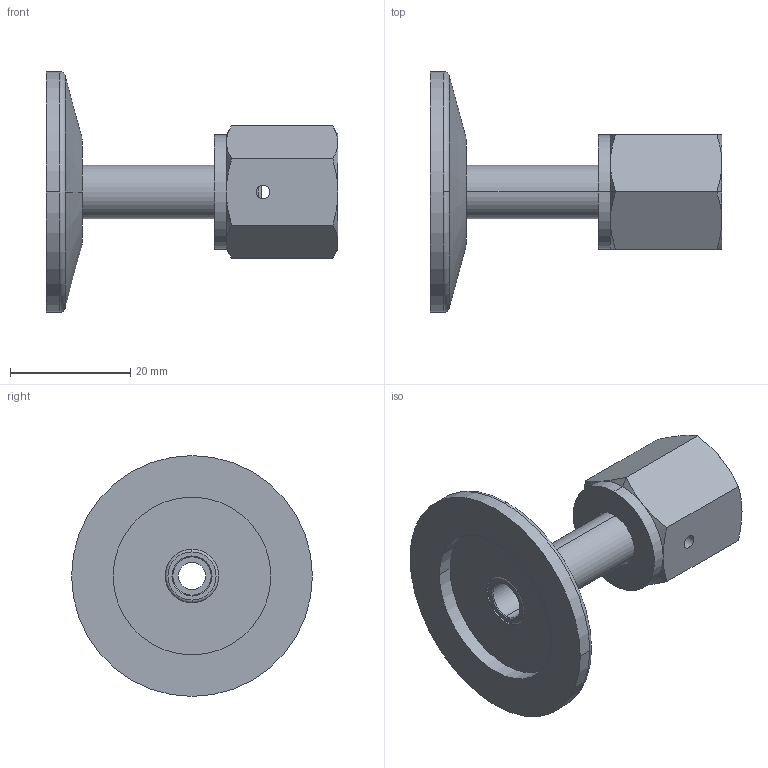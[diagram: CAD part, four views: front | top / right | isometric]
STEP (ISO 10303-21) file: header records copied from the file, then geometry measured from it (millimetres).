
FILE_DESCRIPTION((''),'2;1');
FILE_NAME('W:\211-480.stp','2003-10-31T15:28:55',('KAA'),(''),'Autodesk Inventor (R) 6.0','Autodesk Inventor (R) 6.0','');
FILE_SCHEMA(('CONFIG_CONTROL_DESIGN'));
Length unit declared in the file: millimetre
Products named in the file (1): 211-480
Bounding box: 48.47 x 40 x 40 mm (x, y, z)
Volume: 10074 mm3; surface area: 7075.6 mm2
Topology: 2 solids, 2 shells, 75 faces, 164 edges, 100 vertices
Faces by surface type: cone 26, cylinder 26, plane 17, torus 6
Entity records: 2205 total; most frequent: CARTESIAN_POINT 458, DIRECTION 374, ORIENTED_EDGE 328, AXIS2_PLACEMENT_3D 164, EDGE_CURVE 164, VERTEX_POINT 100, EDGE_LOOP 90, CIRCLE 88
